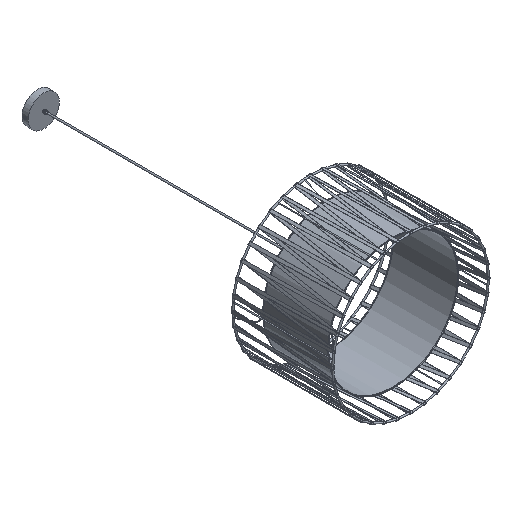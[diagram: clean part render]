
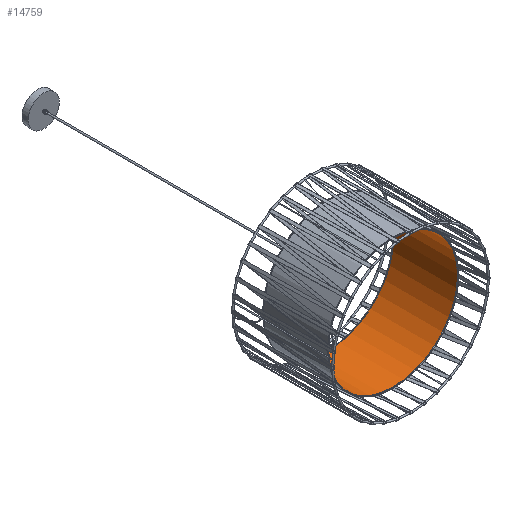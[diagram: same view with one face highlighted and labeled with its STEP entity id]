
A CAD part, isometric view. The second image highlights one B-rep face of the part: STEP entity #14759.
In plain terms, the highlighted cylindrical face has radius 209 mm (diameter 418 mm), a full revolution.
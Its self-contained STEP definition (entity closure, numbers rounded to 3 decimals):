
#90=CYLINDRICAL_SURFACE('',#16588,209.);
#1344=LINE('',#30056,#2305);
#2305=VECTOR('',#20653,210.);
#4147=FACE_OUTER_BOUND('',#5173,.T.);
#5173=EDGE_LOOP('',(#13211,#13212,#13213,#13214));
#6209=CIRCLE('',#16589,209.);
#6210=CIRCLE('',#16590,209.);
#7511=VERTEX_POINT('',#30053);
#7512=VERTEX_POINT('',#30055);
#9437=EDGE_CURVE('',#7511,#7511,#6209,.T.);
#9438=EDGE_CURVE('',#7511,#7512,#1344,.T.);
#9439=EDGE_CURVE('',#7512,#7512,#6210,.T.);
#13211=ORIENTED_EDGE('',*,*,#9437,.F.);
#13212=ORIENTED_EDGE('',*,*,#9438,.T.);
#13213=ORIENTED_EDGE('',*,*,#9439,.F.);
#13214=ORIENTED_EDGE('',*,*,#9438,.F.);
#14759=ADVANCED_FACE('',(#4147),#90,.F.);
#16588=AXIS2_PLACEMENT_3D('',#30052,#20649,#20650);
#16589=AXIS2_PLACEMENT_3D('',#30054,#20651,#20652);
#16590=AXIS2_PLACEMENT_3D('',#30057,#20654,#20655);
#20649=DIRECTION('center_axis',(0.,1.,0.));
#20650=DIRECTION('ref_axis',(1.,0.,0.));
#20651=DIRECTION('center_axis',(0.,1.,0.));
#20652=DIRECTION('ref_axis',(1.,0.,0.));
#20653=DIRECTION('',(0.,1.,0.));
#20654=DIRECTION('center_axis',(0.,-1.,0.));
#20655=DIRECTION('ref_axis',(1.,0.,0.));
#30052=CARTESIAN_POINT('Origin',(0.,160.,0.));
#30053=CARTESIAN_POINT('',(-209.,55.,0.));
#30054=CARTESIAN_POINT('Origin',(0.,55.,0.));
#30055=CARTESIAN_POINT('',(-209.,265.,0.));
#30056=CARTESIAN_POINT('',(-209.,160.,0.));
#30057=CARTESIAN_POINT('Origin',(0.,265.,0.));
